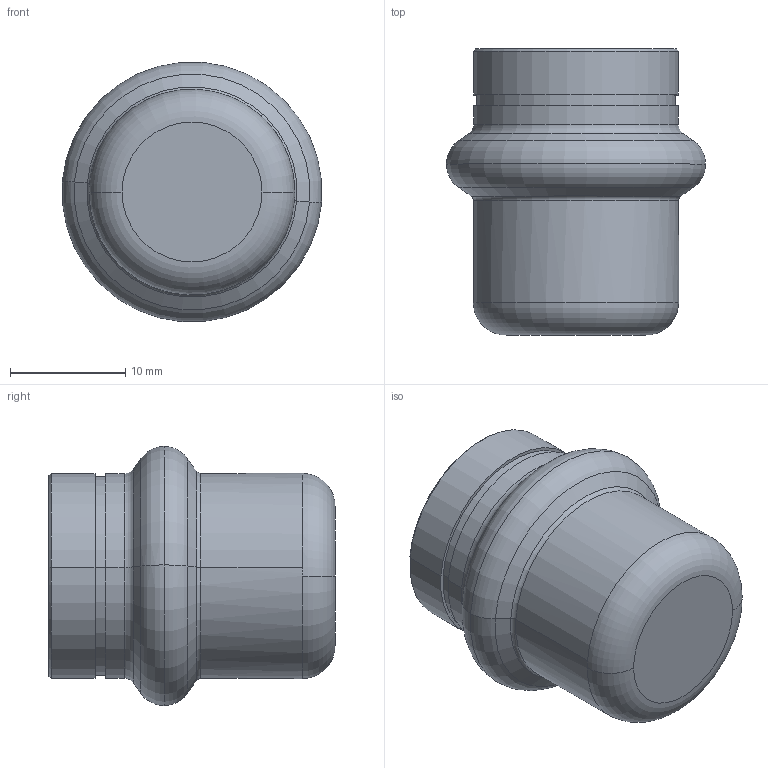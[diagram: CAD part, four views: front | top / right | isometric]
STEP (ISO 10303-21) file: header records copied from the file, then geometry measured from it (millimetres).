
FILE_DESCRIPTION(('CoCreate Modeling STEP Export'),'2;1');
FILE_NAME('8301VW15.stp','2013-03-05T13:27:02',(''),(''),'CoCreate Modeling STEP processor for AP214 (Solid Model)','CoCreate Modeling 17.00A 17-Jun-2010 (C) Parametric Technology GmbH','');
FILE_SCHEMA(('AUTOMOTIVE_DESIGN { 1 0 10303 214 1 1 1 1 }'));
Length unit declared in the file: millimetre
Products named in the file (1): 8301VW15
Bounding box: 22.51 x 24.85 x 22.51 mm (x, y, z)
Volume: 2578.1 mm3; surface area: 3233.6 mm2
Topology: 1 solids, 1 shells, 42 faces, 86 edges, 52 vertices
Faces by surface type: cylinder 16, torus 10, plane 8, cone 8
Entity records: 916 total; most frequent: ORIENTED_EDGE 172, DIRECTION 142, CARTESIAN_POINT 135, EDGE_CURVE 86, AXIS2_PLACEMENT_3D 59, VERTEX_POINT 52, EDGE_LOOP 48, FACE_OUTER_BOUND 42
